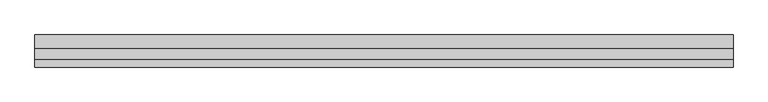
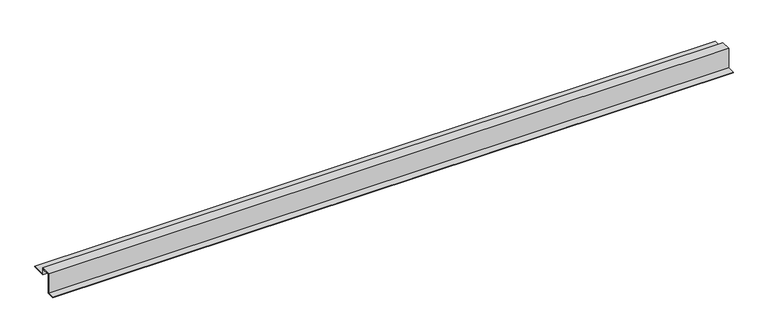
"""IFC4 building model written with IfcOpenShell, lengths in millimetres: proxy geometry, АК8_1 бок Обрамление витражного проема : АК8_1 бок Обрамление витражного проема."""

from ifc_helpers import new_model, si_unit, frame, origin, place, context, project, spatial, polyline, outline, extrude, source, transform, mapped, element, save


def generic_models_43c3eadf(model_context):
    return source(origin(), model_context, "Body", "SweptSolid", [
        extrude(outline(polyline([(12.5, 25.0), (42.5, 25.0), (42.5, 22.0), (27.5, 22.0), (27.5, 23.0), (41.5, 23.0), (41.5, 24.0), (13.5, 24.0), (13.5, -36.9999552), (-10.5, -36.9999552), (-10.5, -35.9999552), (12.5, -35.9999552), (12.5, 25.0)])), frame((0.0, 0.0, 0.0), z_axis=(1.0, 0.0, 0.0), x_axis=(0.0, 1.0, 0.0)), (0.0, 0.0, 1.0), 2021.9741576),
        extrude(outline(polyline([(42.5, 5.0), (82.5, 5.0), (82.5, 4.0), (41.5, 4.0), (41.5, 21.0), (17.5, 21.0), (17.5, 22.0), (42.5, 22.0), (42.5, 5.0)])), frame((0.0, 0.0, 0.0), z_axis=(1.0, 0.0, 0.0), x_axis=(0.0, 1.0, 0.0)), (0.0, 0.0, 1.0), 2021.9741576),
    ])


if __name__ == "__main__":
    model = new_model("IFC4")
    model_context = context("Model", 3, world=origin())
    ifc_project = project(units=[si_unit("LENGTHUNIT", "METRE", prefix="MILLI")], contexts=[model_context])
    site = spatial("IfcSite", under=ifc_project)
    building = spatial("IfcBuilding", under=site)
    placement = place(None, origin())
    generic_models_shape = generic_models_43c3eadf(model_context)
    element("IfcBuildingElementProxy", 1, Name="АК8_1 бок Обрамление витражного проема : АК8_1 бок Обрамление витражного проема", ObjectType="АК8_1 бок Обрамление витражного проема : АК8_1 бок Обрамление витражного проема", at=placement, inside=building, context=model_context, shape_type="MappedRepresentation", body=[
        mapped(generic_models_shape, transform((0.0, 0.0, 0.0), x_axis=(1.0, 0.0, 0.0), y_axis=(0.0, 1.0, 0.0), z_axis=(0.0, 0.0, 1.0))),
    ])
    save(model, "model.ifc")
